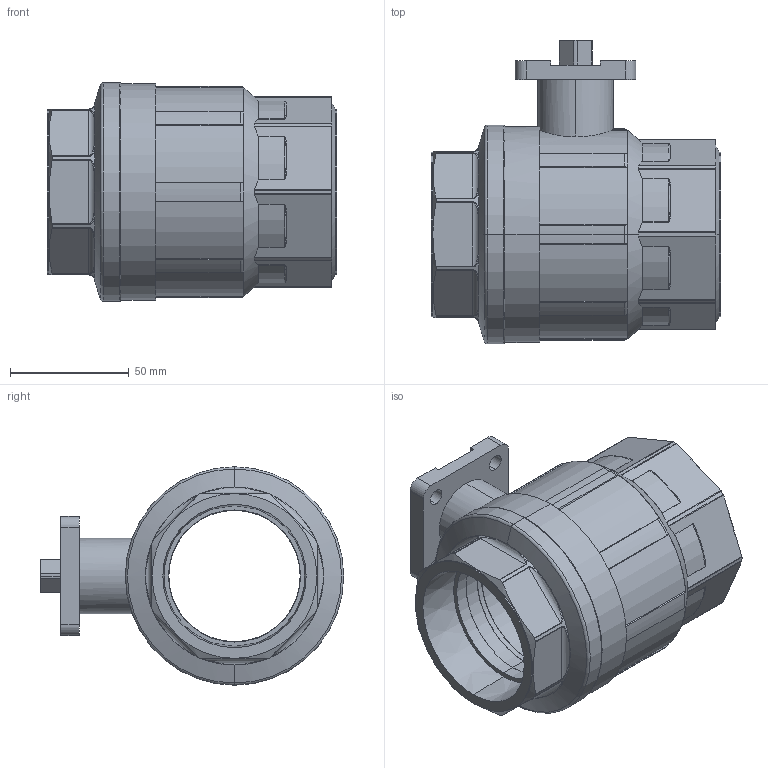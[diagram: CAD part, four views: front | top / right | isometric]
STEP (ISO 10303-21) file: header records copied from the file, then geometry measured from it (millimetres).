
FILE_DESCRIPTION (( 'STEP AP203' ), '1' );
FILE_NAME ('b2f-16.STEP', '2021-06-29T18:54:19', ( 'Owner' ), ( '' ), 'SwSTEP 2.0', 'SolidWorks 2017', '' );
FILE_SCHEMA (( 'CONFIG_CONTROL_DESIGN' ));
Length unit declared in the file: inch
Products named in the file (2): b2f-16
Bounding box: 121.82 x 127.72 x 91.95 mm (x, y, z)
Volume: 382286.1 mm3; surface area: 99783.6 mm2
Topology: 3 solids, 3 shells, 345 faces, 916 edges, 564 vertices
Faces by surface type: cylinder 156, plane 108, bspline 48, cone 14, torus 14, sphere 5
Entity records: 13693 total; most frequent: CARTESIAN_POINT 5358, ORIENTED_EDGE 1778, DIRECTION 1674, EDGE_CURVE 889, AXIS2_PLACEMENT_3D 666, VERTEX_POINT 558, EDGE_LOOP 369, CIRCLE 367
